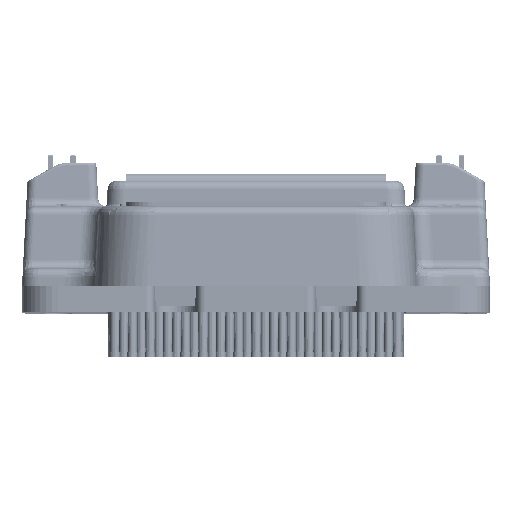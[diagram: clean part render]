
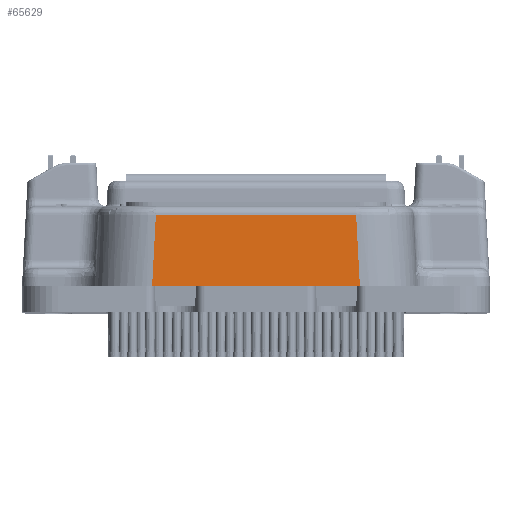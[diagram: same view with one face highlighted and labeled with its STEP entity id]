
A CAD part, top view. The second image highlights one B-rep face of the part: STEP entity #65629.
In plain terms, the highlighted planar face has unit normal (0, 0.052, 0.999).
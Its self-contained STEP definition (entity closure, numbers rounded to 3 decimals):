
#3013 = EDGE_CURVE ( 'NONE', #241307, #128486, #142561, .T. ) ;
#13713 = CARTESIAN_POINT ( 'NONE',  ( 0., 3., 40. ) ) ;
#16045 = LINE ( 'NONE', #196951, #49759 ) ;
#19721 = ORIENTED_EDGE ( 'NONE', *, *, #233508, .T. ) ;
#31658 = LINE ( 'NONE', #122085, #118114 ) ;
#34522 = PLANE ( 'NONE',  #76413 ) ;
#34555 = CARTESIAN_POINT ( 'NONE',  ( 0., 3., 40. ) ) ;
#38772 = VERTEX_POINT ( 'NONE', #153585 ) ;
#49759 = VECTOR ( 'NONE', #84222, 1000. ) ;
#52215 = ORIENTED_EDGE ( 'NONE', *, *, #210464, .T. ) ;
#53817 = DIRECTION ( 'NONE',  ( 1., 0., 0. ) ) ;
#59176 = CARTESIAN_POINT ( 'NONE',  ( 11.337, 11.052, 39.578 ) ) ;
#59628 = DIRECTION ( 'NONE',  ( 0., -0.999, 0.052 ) ) ;
#64360 = CARTESIAN_POINT ( 'NONE',  ( 11.475, 3., 40. ) ) ;
#65629 = ADVANCED_FACE ( 'NONE', ( #191690 ), #34522, .T. ) ;
#70114 = VERTEX_POINT ( 'NONE', #194832 ) ;
#76413 = AXIS2_PLACEMENT_3D ( 'NONE', #13713, #169453, #59628 ) ;
#80557 = ORIENTED_EDGE ( 'NONE', *, *, #197290, .T. ) ;
#84222 = DIRECTION ( 'NONE',  ( 1., 0., 0. ) ) ;
#97248 = CARTESIAN_POINT ( 'NONE',  ( -6.775, 3., 40. ) ) ;
#97674 = VERTEX_POINT ( 'NONE', #207591 ) ;
#99828 = DIRECTION ( 'NONE',  ( 1., 0., 0. ) ) ;
#100725 = ORIENTED_EDGE ( 'NONE', *, *, #118621, .T. ) ;
#103207 = LINE ( 'NONE', #287061, #110577 ) ;
#104670 = DIRECTION ( 'NONE',  ( 1., 0., 0. ) ) ;
#110577 = VECTOR ( 'NONE', #104670, 1000. ) ;
#111816 = EDGE_CURVE ( 'NONE', #97674, #180574, #154441, .T. ) ;
#113042 = ORIENTED_EDGE ( 'NONE', *, *, #120906, .T. ) ;
#118114 = VECTOR ( 'NONE', #99828, 1000. ) ;
#118621 = EDGE_CURVE ( 'NONE', #241307, #38772, #182196, .T. ) ;
#119116 = LINE ( 'NONE', #34555, #195947 ) ;
#120906 = EDGE_CURVE ( 'NONE', #260046, #70114, #119116, .T. ) ;
#122085 = CARTESIAN_POINT ( 'NONE',  ( 0., 3., 40. ) ) ;
#128486 = VERTEX_POINT ( 'NONE', #253563 ) ;
#132619 = VERTEX_POINT ( 'NONE', #97248 ) ;
#133955 = VECTOR ( 'NONE', #244586, 1000. ) ;
#141698 = EDGE_LOOP ( 'NONE', ( #52215, #170069, #176357, #80557, #144061, #100725, #19721, #113042 ) ) ;
#142561 = LINE ( 'NONE', #185588, #246899 ) ;
#144061 = ORIENTED_EDGE ( 'NONE', *, *, #3013, .F. ) ;
#146453 = CARTESIAN_POINT ( 'NONE',  ( -11.759, 3., 40. ) ) ;
#153585 = CARTESIAN_POINT ( 'NONE',  ( -11.337, 11.052, 39.578 ) ) ;
#154441 = LINE ( 'NONE', #196020, #259787 ) ;
#158040 = EDGE_CURVE ( 'NONE', #132619, #97674, #103207, .T. ) ;
#169453 = DIRECTION ( 'NONE',  ( 0., 0.052, 0.999 ) ) ;
#170069 = ORIENTED_EDGE ( 'NONE', *, *, #158040, .T. ) ;
#174049 = DIRECTION ( 'NONE',  ( -0.052, -0.997, 0.052 ) ) ;
#176357 = ORIENTED_EDGE ( 'NONE', *, *, #111816, .T. ) ;
#180574 = VERTEX_POINT ( 'NONE', #64360 ) ;
#182196 = LINE ( 'NONE', #243123, #133955 ) ;
#185588 = CARTESIAN_POINT ( 'NONE',  ( 11.667, 4.747, 39.908 ) ) ;
#191690 = FACE_OUTER_BOUND ( 'NONE', #141698, .T. ) ;
#194832 = CARTESIAN_POINT ( 'NONE',  ( -11.475, 3., 40. ) ) ;
#195947 = VECTOR ( 'NONE', #53817, 1000. ) ;
#196020 = CARTESIAN_POINT ( 'NONE',  ( 0., 3., 40. ) ) ;
#196951 = CARTESIAN_POINT ( 'NONE',  ( 0., 3., 40. ) ) ;
#197290 = EDGE_CURVE ( 'NONE', #180574, #128486, #16045, .T. ) ;
#200730 = LINE ( 'NONE', #291163, #258141 ) ;
#207591 = CARTESIAN_POINT ( 'NONE',  ( 6.775, 3., 40. ) ) ;
#210464 = EDGE_CURVE ( 'NONE', #70114, #132619, #31658, .T. ) ;
#212209 = DIRECTION ( 'NONE',  ( 0.052, -0.997, 0.052 ) ) ;
#233508 = EDGE_CURVE ( 'NONE', #38772, #260046, #200730, .T. ) ;
#241307 = VERTEX_POINT ( 'NONE', #59176 ) ;
#243123 = CARTESIAN_POINT ( 'NONE',  ( 0., 11.052, 39.578 ) ) ;
#244586 = DIRECTION ( 'NONE',  ( -1., 0., 0. ) ) ;
#246899 = VECTOR ( 'NONE', #212209, 1000. ) ;
#253563 = CARTESIAN_POINT ( 'NONE',  ( 11.759, 3., 40. ) ) ;
#258141 = VECTOR ( 'NONE', #174049, 1000. ) ;
#259787 = VECTOR ( 'NONE', #286496, 1000. ) ;
#260046 = VERTEX_POINT ( 'NONE', #146453 ) ;
#286496 = DIRECTION ( 'NONE',  ( 1., 0., 0. ) ) ;
#287061 = CARTESIAN_POINT ( 'NONE',  ( 0., 3., 40. ) ) ;
#291163 = CARTESIAN_POINT ( 'NONE',  ( -11.337, 11.052, 39.578 ) ) ;
